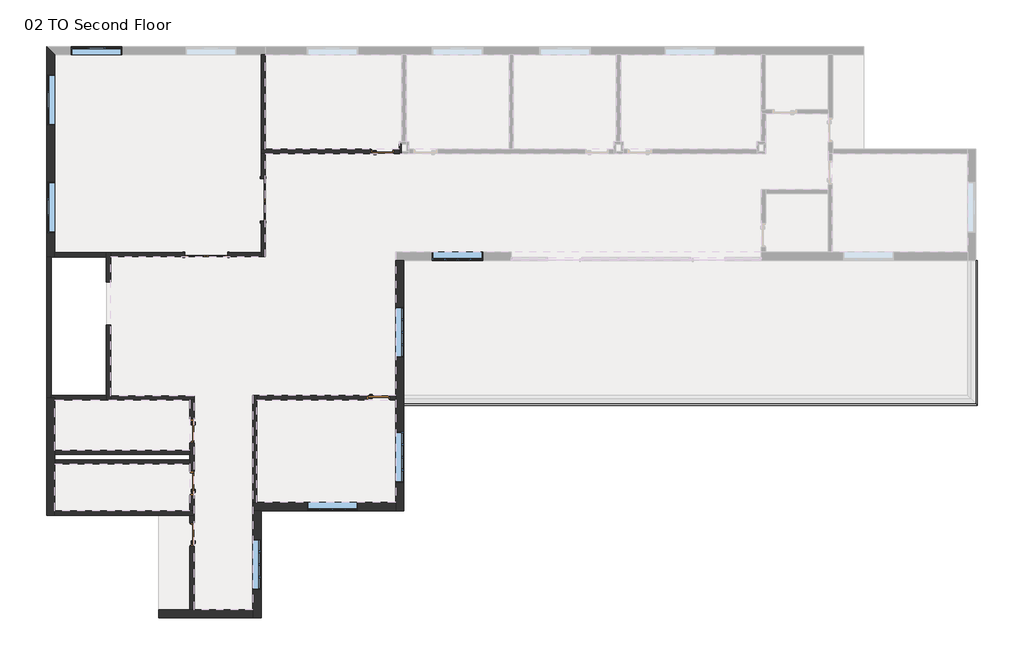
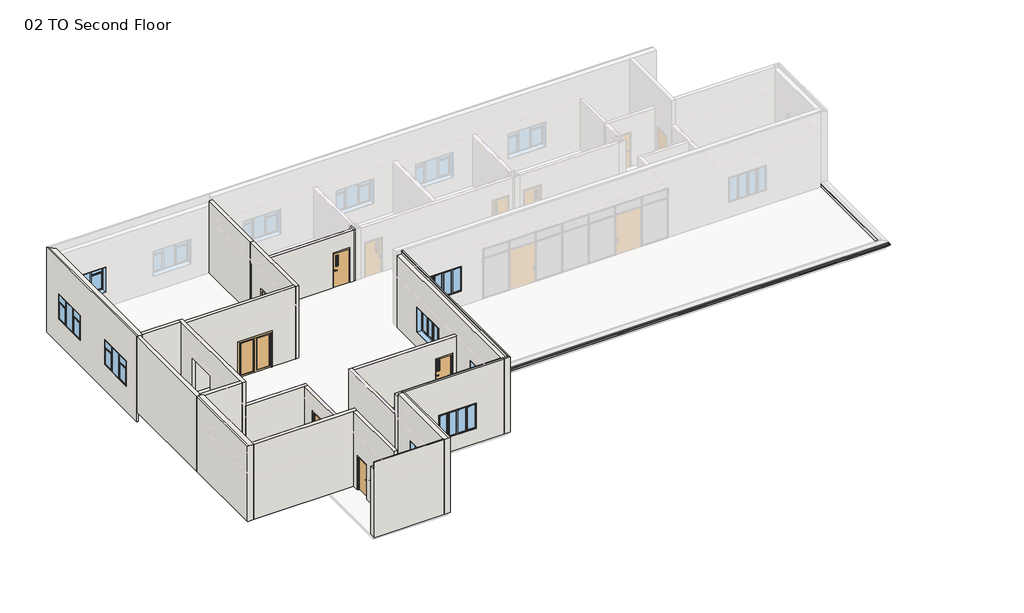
# One storey, part 1 of 3: 25 walls, 8 windows, 7 doors, 2 proxies.
"""IFC4 building model written with IfcOpenShell, lengths in millimetres."""

from ifc_helpers import new_model, si_unit, frame, origin, place, context, project, spatial, polyline, outline, extrude, faceted_brep, transform, mapped, element, save
from components import door_38a2a0c9, door_cf532139, door_1f8fe3fe, door_c4c6d6d8, door_a53d2063, door_a2a745b5, window_c7d59df6, window_casement_triple_side_transom_c3c25feb

model = new_model("IFC4")

# Units and contexts
model_context = context("Model", 3, world=origin())
ifc_project = project(units=[si_unit("LENGTHUNIT", "METRE", prefix="MILLI")], contexts=[model_context])

# Site, building, storey
site = spatial("IfcSite", under=ifc_project)
building = spatial("IfcBuilding", under=site)
storey = spatial("IfcBuildingStorey", under=building, Name="02 TO Second Floor", Elevation=4572.0)

# Proxies
placement = place(None, origin())
element("IfcBuildingElementProxy", 1, Name="Reveals", at=placement, inside=storey, context=model_context, shape_type="SweptSolid", body=[
    extrude(outline(polyline([(-4282.7273699, -6056.5003362), (-4282.7273699, -5964.4253362), (20075.8726301, -5964.4253362), (20167.9476301, -6056.5003362), (-4282.7273699, -6056.5003362)])), frame((0.0, 0.0, 4648.2), z_axis=(0.0, 0.0, 1.0), x_axis=(1.0, 0.0, 0.0)), (0.0, 0.0, 1.0), 67.7333333),
])
element("IfcBuildingElementProxy", 2, Name="Reveals", at=placement, inside=storey, context=model_context, shape_type="SweptSolid", body=[
    extrude(outline(polyline([(20167.9476301, -6056.5003362), (20075.8726301, -5964.4253362), (20075.8726301, 115.6996638), (20167.9476301, 115.6996638), (20167.9476301, -6056.5003362)])), frame((0.0, 0.0, 4648.2), z_axis=(0.0, 0.0, 1.0), x_axis=(1.0, 0.0, 0.0)), (0.0, 0.0, 1.0), 67.7333333),
])

# Doors
door_shape = door_38a2a0c9(model_context)
element("IfcDoor", 3, ObjectType="Door-Double-Glass : Door Double Glass_72\" x 84\"", at=placement, inside=storey, context=model_context, shape_type="MappedRepresentation", body=[
    mapped(door_shape, transform((-10289.0336199, 2706.4996638, 4572.0), x_axis=(0.0, -1.0, 0.0), y_axis=(1.0, 0.0, 0.0), z_axis=(0.0, 0.0, 1.0))),
])
element("IfcDoor", 4, ObjectType="Door-Double-Glass : Door Double Glass_72\" x 84\"", at=placement, inside=storey, context=model_context, shape_type="MappedRepresentation", body=[
    mapped(door_shape, transform((-12715.5273699, 372.0809138, 4572.0), x_axis=(-1.0, 0.0, 0.0), y_axis=(0.0, -1.0, 0.0), z_axis=(0.0, 0.0, 1.0))),
])
door_2_shape = door_cf532139(model_context)
element("IfcDoor", 5, ObjectType="Door-Passage-Single-Flush : Door Passage Single Flush_36\" x 80\"", at=placement, inside=storey, context=model_context, shape_type="MappedRepresentation", body=[
    mapped(door_2_shape, transform((-13321.9523699, -7158.2253362, 4572.0), x_axis=(0.0, -1.0, 0.0), y_axis=(1.0, 0.0, 0.0), z_axis=(0.0, 0.0, 1.0))),
])
door_3_shape = door_1f8fe3fe(model_context)
element("IfcDoor", 6, ObjectType="Door-Passage-Single-Flush : Door Passage Single Flush_36\" x 80\"", at=placement, inside=storey, context=model_context, shape_type="MappedRepresentation", body=[
    mapped(door_3_shape, transform((-13321.9523699, -9393.4253362, 4572.0), x_axis=(0.0, 1.0, 0.0), y_axis=(-1.0, 0.0, 0.0), z_axis=(0.0, 0.0, 1.0))),
])
door_4_shape = door_c4c6d6d8(model_context)
element("IfcDoor", 7, ObjectType="Door-Passage-Single-Flush : Door Passage Single Flush_36\" x 80\"", at=placement, inside=storey, context=model_context, shape_type="MappedRepresentation", body=[
    mapped(door_4_shape, transform((-13331.4773699, -11577.8253362, 4572.0), x_axis=(0.0, 1.0, 0.0), y_axis=(-1.0, 0.0, 0.0), z_axis=(0.0, 0.0, 1.0))),
])
door_5_shape = door_a53d2063(model_context)
element("IfcDoor", 8, ObjectType="Door-Passage-Single-Vision_Lite : Door Passage Single Vision Lite_36\" x 80\"", at=placement, inside=storey, context=model_context, shape_type="MappedRepresentation", body=[
    mapped(door_5_shape, transform((-5197.1273699, 4776.5996638, 4572.0), x_axis=(1.0, 0.0, 0.0), y_axis=(0.0, 1.0, 0.0), z_axis=(0.0, 0.0, 1.0))),
])
door_6_shape = door_a2a745b5(model_context)
element("IfcDoor", 9, ObjectType="Door-Passage-Single-Vision_Lite : Door Passage Single Vision Lite_36\" x 80\"", at=placement, inside=storey, context=model_context, shape_type="MappedRepresentation", body=[
    mapped(door_6_shape, transform((-5374.9273699, -5742.1753362, 4572.0), x_axis=(1.0, 0.0, 0.0), y_axis=(0.0, 1.0, 0.0), z_axis=(0.0, 0.0, 1.0))),
])

# Walls
element("IfcWall", 10, ObjectType="Ext Wall_14\"_Brick on CMU_E1", at=placement, inside=storey, context=model_context, shape_type="Brep", body=[
    faceted_brep([(-4638.3273699, 115.6996638, 4572.0), (-4638.3273699, -5643.7503362, 4572.0), (-4638.3273699, -5827.9003362, 4572.0), (-4638.3273699, -10206.2253362, 4572.0), (-4638.3273699, -10561.8253362, 4572.0), (-4638.3273699, -10561.8253362, 9144.0), (-4638.3273699, -10460.2253362, 9144.0), (-4638.3273699, -10460.2253362, 8966.2), (-4638.3273699, -10206.2253362, 8966.2), (-4638.3273699, 115.6996638, 8966.2), (-4638.3273699, -9355.3253362, 7010.4), (-4638.3273699, -9355.3253362, 5486.4), (-4638.3273699, -7196.3253362, 5486.4), (-4638.3273699, -7196.3253362, 7010.4), (-4638.3273699, -4021.3253362, 7010.4), (-4638.3273699, -4021.3253362, 5486.4), (-4638.3273699, -1862.3253362, 5486.4), (-4638.3273699, -1862.3253362, 7010.4), (-4282.7273699, 115.6996638, 9144.0), (-4282.7273699, -10561.8253362, 9144.0), (-4282.7273699, -10561.8253362, 4572.0), (-4282.7273699, -5989.8253362, 4572.0), (-4282.7273699, -5634.2253362, 4572.0), (-4282.7273699, 115.6996638, 4572.0), (-4282.7273699, -9355.3253362, 5486.4), (-4282.7273699, -9355.3253362, 7010.4), (-4282.7273699, -7196.3253362, 7010.4), (-4282.7273699, -7196.3253362, 5486.4), (-4282.7273699, -4021.3253362, 5486.4), (-4282.7273699, -4021.3253362, 7010.4), (-4282.7273699, -1862.3253362, 7010.4), (-4282.7273699, -1862.3253362, 5486.4), (-4358.9273699, 115.6996638, 4572.0), (-4384.3273699, 115.6996638, 8966.2), (-4384.3273699, 115.6996638, 9144.0), (-4358.9273699, 115.6996638, 9144.0), (-4358.9273699, -10561.8253362, 4572.0), (-4358.9273699, -10561.8253362, 9144.0), (-4384.3273699, -10460.2253362, 8966.2), (-4384.3273699, -10460.2253362, 9144.0)], [[[0, 1, 2, 3, 4, 5, 6, 7, 8, 9], [10, 11, 12, 13], [14, 15, 16, 17]], [[18, 19, 20, 21, 22, 23], [24, 25, 26, 27], [28, 29, 30, 31]], [[18, 23, 32, 0, 9, 33, 34, 35]], [[5, 4, 36, 20, 19, 37]], [[7, 38, 33, 9, 8]], [[38, 39, 34, 33]], [[39, 38, 7, 6]], [[11, 10, 25, 24]], [[12, 11, 24, 27]], [[13, 12, 27, 26]], [[10, 13, 26, 25]], [[15, 14, 29, 28]], [[16, 15, 28, 31]], [[17, 16, 31, 30]], [[14, 17, 30, 29]], [[4, 3, 2, 1, 0, 32, 36]], [[32, 23, 22, 21, 20, 36]], [[19, 18, 35, 37]], [[5, 37, 35, 34, 39, 6]]]),
])
element("IfcWall", 11, ObjectType="Ext Wall_14\"_Brick on CMU_E1", at=placement, inside=storey, context=model_context, shape_type="Brep", body=[
    faceted_brep([(-4638.3273699, -10206.2253362, 4572.0), (-10550.1773699, -10206.2253362, 4572.0), (-10734.3273699, -10206.2253362, 4572.0), (-10734.3273699, -10206.2253362, 7670.8), (-10734.3273699, -10206.2253362, 8966.2), (-4638.3273699, -10206.2253362, 8966.2), (-8410.2273699, -10206.2253362, 7010.4), (-8410.2273699, -10206.2253362, 5486.4), (-6251.2273699, -10206.2253362, 5486.4), (-6251.2273699, -10206.2253362, 7010.4), (-4638.3273699, -10561.8253362, 4572.0), (-4638.3273699, -10561.8253362, 9144.0), (-10378.7273699, -10561.8253362, 9144.0), (-10480.3273699, -10561.8253362, 9144.0), (-10480.3273699, -10561.8253362, 8966.2), (-10734.3273699, -10561.8253362, 8966.2), (-10734.3273699, -10561.8253362, 4572.0), (-10378.7273699, -10561.8253362, 4572.0), (-8410.2273699, -10561.8253362, 5486.4), (-8410.2273699, -10561.8253362, 7010.4), (-6251.2273699, -10561.8253362, 7010.4), (-6251.2273699, -10561.8253362, 5486.4), (-4638.3273699, -10485.6253362, 4572.0), (-4638.3273699, -10460.2253362, 8966.2), (-4638.3273699, -10460.2253362, 9144.0), (-4638.3273699, -10485.6253362, 9144.0), (-10480.3273699, -10460.2253362, 8966.2), (-10480.3273699, -10460.2253362, 9144.0), (-10480.3273699, -10485.6253362, 9144.0), (-10734.3273699, -10485.6253362, 4572.0)], [[[0, 1, 2, 3, 4, 5], [6, 7, 8, 9]], [[10, 11, 12, 13, 14, 15, 16, 17], [18, 19, 20, 21]], [[11, 10, 22, 0, 5, 23, 24, 25]], [[14, 26, 23, 5, 4, 15]], [[27, 26, 14, 13, 28]], [[26, 27, 24, 23]], [[7, 6, 19, 18]], [[8, 7, 18, 21]], [[9, 8, 21, 20]], [[6, 9, 20, 19]], [[2, 29, 16, 15, 4, 3]], [[2, 1, 0, 22, 29]], [[22, 10, 17, 16, 29]], [[11, 25, 28, 13, 12]], [[25, 24, 27, 28]]]),
])
element("IfcWall", 12, ObjectType="Ext Wall_14\"_Brick on CMU_E1", at=placement, inside=storey, context=model_context, shape_type="Brep", body=[
    faceted_brep([(-10734.3273699, -10561.8253362, 9144.0), (-10734.3273699, -10561.8253362, 8966.2), (-10734.3273699, -10561.8253362, 4572.0), (-10734.3273699, -14778.2253362, 4572.0), (-10734.3273699, -15133.8253362, 4572.0), (-10734.3273699, -15133.8253362, 9144.0), (-10734.3273699, -15057.6253362, 9144.0), (-10734.3273699, -13927.3253362, 7010.4), (-10734.3273699, -13927.3253362, 5486.4), (-10734.3273699, -11768.3253362, 5486.4), (-10734.3273699, -11768.3253362, 7010.4), (-10378.7273699, -10561.8253362, 4572.0), (-10378.7273699, -10561.8253362, 9144.0), (-10378.7273699, -15133.8253362, 9144.0), (-10378.7273699, -15133.8253362, 4572.0), (-10378.7273699, -13927.3253362, 7010.4), (-10378.7273699, -11768.3253362, 7010.4), (-10378.7273699, -11768.3253362, 5486.4), (-10378.7273699, -13927.3253362, 5486.4), (-10454.9273699, -15133.8253362, 4572.0), (-10454.9273699, -15133.8253362, 9144.0), (-10480.3273699, -10561.8253362, 9144.0), (-10454.9273699, -10561.8253362, 9144.0), (-10454.9273699, -10561.8253362, 4572.0)], [[[0, 1, 2, 3, 4, 5, 6], [7, 8, 9, 10]], [[11, 12, 13, 14], [15, 16, 17, 18]], [[5, 4, 19, 14, 13, 20]], [[8, 7, 15, 18]], [[9, 8, 18, 17]], [[10, 9, 17, 16]], [[7, 10, 16, 15]], [[0, 21, 22, 12, 11, 23, 2, 1]], [[4, 3, 2, 23, 19]], [[23, 11, 14, 19]], [[20, 13, 12, 22]], [[0, 6, 5, 20, 22, 21]]]),
])
element("IfcWall", 13, ObjectType="Ext Wall_14\"_Brick on CMU_E1", at=placement, inside=storey, context=model_context, shape_type="Brep", body=[
    faceted_brep([(-19167.1273699, -10765.0253362, 4572.0), (-19167.1273699, -8563.1628362, 4572.0), (-19167.1273699, -8394.8878362, 4572.0), (-19167.1273699, -8156.7628362, 4572.0), (-19167.1273699, -7988.4878362, 4572.0), (-19167.1273699, -5735.8253362, 4572.0), (-19167.1273699, -5735.8253362, 9144.0), (-19167.1273699, -10765.0253362, 9144.0), (-19522.7273699, -10765.0253362, 4572.0), (-19522.7273699, -10765.0253362, 9144.0), (-19522.7273699, -5735.8253362, 9144.0), (-19522.7273699, -5735.8253362, 4572.0), (-19319.5273699, -5735.8253362, 4572.0), (-19446.5273699, -5735.8253362, 4572.0), (-19446.5273699, -5735.8253362, 9144.0), (-19319.5273699, -5735.8253362, 9144.0), (-19446.5273699, -10765.0253362, 9144.0), (-19446.5273699, -10765.0253362, 4572.0)], [[[0, 1, 2, 3, 4, 5, 6, 7]], [[8, 9, 10, 11]], [[6, 5, 12, 13, 11, 10, 14, 15]], [[0, 7, 16, 9, 8, 17]], [[5, 4, 3, 2, 1, 0, 17, 13, 12]], [[17, 8, 11, 13]], [[14, 10, 9, 16]], [[7, 6, 15, 14, 16]]]),
])
element("IfcWall", 14, ObjectType="Ext Wall_14\"_Brick on CMU_E1", at=placement, inside=storey, context=model_context, shape_type="SweptSolid", body=[
    extrude(outline(polyline([(-15133.8253362, 4572.0), (-15133.8253362, 9144.0), (-15057.6253362, 9144.0), (-15057.6253362, 8686.8), (-14778.2253362, 8686.8), (-14778.2253362, 4572.0), (-15057.6253362, 4572.0), (-15133.8253362, 4572.0)])), frame((-14747.5273699, 0.0, 0.0), z_axis=(1.0, 0.0, 0.0), x_axis=(0.0, 1.0, 0.0)), (0.0, 0.0, 1.0), 4013.2),
])
element("IfcWall", 15, ObjectType="Ext Wall_14\"_Brick on CMU_E1", at=placement, inside=storey, context=model_context, shape_type="Brep", body=[
    faceted_brep([(-19167.1273699, 258.5746638, 4572.0), (-19167.1273699, 8894.5746638, 4572.0), (-19167.1273699, 8894.5746638, 9144.0), (-19167.1273699, 258.5746638, 9144.0), (-19167.1273699, 8043.6746638, 7010.4), (-19167.1273699, 8043.6746638, 5486.4), (-19167.1273699, 5884.6746638, 5486.4), (-19167.1273699, 5884.6746638, 7010.4), (-19167.1273699, 3471.6746638, 7010.4), (-19167.1273699, 3471.6746638, 5486.4), (-19167.1273699, 1312.6746638, 5486.4), (-19167.1273699, 1312.6746638, 7010.4), (-19522.7273699, 258.5746638, 3962.4), (-19522.7273699, 258.5746638, 4572.0), (-19522.7273699, 258.5746638, 9144.0), (-19522.7273699, 9250.1746638, 9144.0), (-19522.7273699, 9250.1746638, 3962.4), (-19522.7273699, 8043.6746638, 7010.4), (-19522.7273699, 5884.6746638, 7010.4), (-19522.7273699, 5884.6746638, 5486.4), (-19522.7273699, 8043.6746638, 5486.4), (-19522.7273699, 3471.6746638, 7010.4), (-19522.7273699, 1312.6746638, 7010.4), (-19522.7273699, 1312.6746638, 5486.4), (-19522.7273699, 3471.6746638, 5486.4), (-19319.5273699, 258.5746638, 4572.0), (-19446.5273699, 258.5746638, 4572.0), (-19446.5273699, 9173.9746638, 4572.0), (-19446.5273699, 258.5746638, 3962.4), (-19446.5273699, 9173.9746638, 3962.4), (-19446.5273699, 9173.9746638, 9144.0), (-19319.5273699, 258.5746638, 9144.0), (-19446.5273699, 258.5746638, 9144.0)], [[[0, 1, 2, 3], [4, 5, 6, 7], [8, 9, 10, 11]], [[12, 13, 14, 15, 16], [17, 18, 19, 20], [21, 22, 23, 24]], [[1, 0, 25, 26, 27]], [[27, 26, 28, 29]], [[2, 1, 27, 29, 16, 15, 30]], [[4, 7, 18, 17]], [[7, 6, 19, 18]], [[6, 5, 20, 19]], [[5, 4, 17, 20]], [[8, 11, 22, 21]], [[11, 10, 23, 22]], [[10, 9, 24, 23]], [[9, 8, 21, 24]], [[0, 3, 31, 32, 14, 13, 12, 28, 26, 25]], [[28, 12, 16, 29]], [[30, 15, 14, 32]], [[3, 2, 30, 32, 31]]]),
])
element("IfcWall", 16, ObjectType="Ext Wall_Brick on CIP_E4", at=placement, inside=storey, context=model_context, shape_type="Brep", body=[
    faceted_brep([(-19319.5273699, -5735.8253362, 4572.0), (-19319.5273699, 258.5746638, 4572.0), (-19319.5273699, 258.5746638, 9144.0), (-19319.5273699, -5735.8253362, 9144.0), (-19522.7273699, -5735.8253362, 4572.0), (-19522.7273699, -5735.8253362, 9144.0), (-19522.7273699, 258.5746638, 9144.0), (-19522.7273699, 258.5746638, 4572.0), (-19446.5273699, 258.5746638, 4572.0)], [[[0, 1, 2, 3]], [[4, 5, 6, 7]], [[1, 0, 4, 7, 8]], [[3, 2, 6, 5]], [[0, 3, 5, 4]], [[2, 1, 8, 7, 6]]]),
])
element("IfcWall", 17, ObjectType="IntWall_P1_7 1/4\"", at=placement, inside=storey, context=model_context, shape_type="Brep", body=[
    faceted_brep([(-10194.5773699, 4862.3246638, 4572.0), (-10194.5773699, 8894.5746638, 4572.0), (-10194.5773699, 8894.5746638, 8966.2), (-10194.5773699, 4770.2496638, 8966.2), (-10194.5773699, 4770.2496638, 7670.8), (-10194.5773699, 4862.3246638, 7670.8), (-10378.7273699, 4862.3246638, 4572.0), (-10378.7273699, 4862.3246638, 7670.8), (-10378.7273699, 4770.2496638, 7670.8), (-10378.7273699, 4770.2496638, 8966.2), (-10378.7273699, 8894.5746638, 8966.2), (-10378.7273699, 8894.5746638, 4572.0), (-10200.9273699, 8894.5746638, 4572.0)], [[[0, 1, 2, 3, 4, 5]], [[6, 7, 8, 9, 10, 11]], [[1, 0, 6, 11, 12]], [[3, 2, 10, 9]], [[2, 1, 12, 11, 10]], [[4, 3, 9, 8]], [[4, 8, 7, 5]], [[0, 5, 7, 6]]]),
])
element("IfcWall", 18, ObjectType="IntWall_P1_7 1/4\"", at=placement, inside=storey, context=model_context, shape_type="Brep", body=[
    faceted_brep([(-10378.7273699, 1792.0996638, 6705.6), (-10378.7273699, 1792.0996638, 4572.0), (-10378.7273699, 461.7746638, 4572.0), (-10378.7273699, 277.6246638, 4572.0), (-10378.7273699, 277.6246638, 8966.2), (-10378.7273699, 461.7746638, 8966.2), (-10378.7273699, 4770.2496638, 8966.2), (-10378.7273699, 4770.2496638, 7670.8), (-10378.7273699, 4678.1746638, 7670.8), (-10378.7273699, 4678.1746638, 4572.0), (-10378.7273699, 3620.8996638, 4572.0), (-10378.7273699, 3620.8996638, 6705.6), (-10194.5773699, 277.6246638, 4572.0), (-10194.5773699, 1792.0996638, 4572.0), (-10194.5773699, 1792.0996638, 6705.6), (-10194.5773699, 3620.8996638, 6705.6), (-10194.5773699, 3620.8996638, 4572.0), (-10194.5773699, 4678.1746638, 4572.0), (-10194.5773699, 4678.1746638, 7670.8), (-10194.5773699, 4770.2496638, 7670.8), (-10194.5773699, 4770.2496638, 8966.2), (-10194.5773699, 277.6246638, 8966.2)], [[[0, 1, 2, 3, 4, 5, 6, 7, 8, 9, 10, 11]], [[12, 13, 14, 15, 16, 17, 18, 19, 20, 21]], [[10, 9, 17, 16]], [[3, 2, 1, 13, 12]], [[6, 5, 4, 21, 20]], [[4, 3, 12, 21]], [[14, 13, 1, 0]], [[15, 14, 0, 11]], [[16, 15, 11, 10]], [[7, 6, 20, 19]], [[7, 19, 18, 8]], [[9, 8, 18, 17]]]),
])
element("IfcWall", 19, ObjectType="IntWall_P1_7 1/4\"", at=placement, inside=storey, context=model_context, shape_type="SweptSolid", body=[
    extrude(outline(polyline([(4572.0, -16779.5273699), (4572.0, -13629.9273699), (6705.6, -13629.9273699), (6705.6, -11801.1273699), (4572.0, -11801.1273699), (4572.0, -10378.7273699), (8966.2, -10378.7273699), (8966.2, -16779.5273699), (4572.0, -16779.5273699)])), frame((0.0, 277.6246638, 0.0), z_axis=(0.0, 1.0, 0.0), x_axis=(0.0, 0.0, 1.0)), (0.0, 0.0, 1.0), 184.15),
])
element("IfcWall", 20, ObjectType="IntWall_P1_7 1/4\"", at=placement, inside=storey, context=model_context, shape_type="Brep", body=[
    faceted_brep([(-16779.5273699, -5837.4253362, 4572.0), (-13407.6773699, -5837.4253362, 4572.0), (-13223.5273699, -5837.4253362, 4572.0), (-13223.5273699, -5837.4253362, 7670.8), (-13407.6773699, -5837.4253362, 7670.8), (-16779.5273699, -5837.4253362, 7670.8), (-16779.5273699, -5653.2753362, 4572.0), (-16779.5273699, -5653.2753362, 7670.8), (-13223.5273699, -5653.2753362, 7670.8), (-13223.5273699, -5653.2753362, 4572.0)], [[[0, 1, 2, 3, 4, 5]], [[6, 7, 8, 9]], [[2, 1, 0, 6, 9]], [[5, 4, 3, 8, 7]], [[3, 2, 9, 8]], [[0, 5, 7, 6]]]),
])
element("IfcWall", 21, ObjectType="IntWall_P1_7 1/4\"", at=placement, inside=storey, context=model_context, shape_type="Brep", body=[
    faceted_brep([(-13223.5273699, -5837.4253362, 7670.8), (-13223.5273699, -10561.8253362, 7670.8), (-13223.5273699, -10561.8253362, 4572.0), (-13223.5273699, -9901.4253362, 4572.0), (-13223.5273699, -9901.4253362, 6705.6), (-13223.5273699, -8885.4253362, 6705.6), (-13223.5273699, -8885.4253362, 4572.0), (-13223.5273699, -7666.2253362, 4572.0), (-13223.5273699, -7666.2253362, 6705.6), (-13223.5273699, -6650.2253362, 6705.6), (-13223.5273699, -6650.2253362, 4572.0), (-13223.5273699, -5837.4253362, 4572.0), (-13407.6773699, -10561.8253362, 7670.8), (-13407.6773699, -5837.4253362, 7670.8), (-13407.6773699, -5837.4253362, 4572.0), (-13407.6773699, -6650.2253362, 4572.0), (-13407.6773699, -6650.2253362, 6705.6), (-13407.6773699, -7666.2253362, 6705.6), (-13407.6773699, -7666.2253362, 4572.0), (-13407.6773699, -7988.4878362, 4572.0), (-13407.6773699, -8156.7628362, 4572.0), (-13407.6773699, -8394.8878362, 4572.0), (-13407.6773699, -8563.1628362, 4572.0), (-13407.6773699, -8885.4253362, 4572.0), (-13407.6773699, -8885.4253362, 6705.6), (-13407.6773699, -9901.4253362, 6705.6), (-13407.6773699, -9901.4253362, 4572.0), (-13407.6773699, -10561.8253362, 4572.0)], [[[0, 1, 2, 3, 4, 5, 6, 7, 8, 9, 10, 11]], [[12, 13, 14, 15, 16, 17, 18, 19, 20, 21, 22, 23, 24, 25, 26, 27]], [[2, 27, 26, 3]], [[14, 11, 10, 15]], [[6, 23, 22, 21, 20, 19, 18, 7]], [[1, 0, 13, 12]], [[2, 1, 12, 27]], [[0, 11, 14, 13]], [[5, 24, 23, 6]], [[24, 5, 4, 25]], [[25, 4, 3, 26]], [[17, 8, 7, 18]], [[8, 17, 16, 9]], [[9, 16, 15, 10]]]),
])
element("IfcWall", 22, ObjectType="IntWall_P1_7 1/4\"", at=placement, inside=storey, context=model_context, shape_type="Brep", body=[
    faceted_brep([(-10550.1773699, -10206.2253362, 4572.0), (-10550.1773699, -5827.9003362, 4572.0), (-10550.1773699, -5643.7503362, 4572.0), (-10550.1773699, -5643.7503362, 7670.8), (-10550.1773699, -5827.9003362, 7670.8), (-10550.1773699, -10206.2253362, 7670.8), (-10734.3273699, -10206.2253362, 4572.0), (-10734.3273699, -10206.2253362, 7670.8), (-10734.3273699, -5643.7503362, 7670.8), (-10734.3273699, -5643.7503362, 4572.0)], [[[0, 1, 2, 3, 4, 5]], [[6, 7, 8, 9]], [[2, 1, 0, 6, 9]], [[5, 4, 3, 8, 7]], [[0, 5, 7, 6]], [[3, 2, 9, 8]]]),
])
element("IfcWall", 23, ObjectType="IntWall_P1_7 1/4\"", at=placement, inside=storey, context=model_context, shape_type="SweptSolid", body=[
    extrude(outline(polyline([(7670.8, -4638.3273699), (7670.8, -10550.1773699), (4572.0, -10550.1773699), (4572.0, -5882.9273699), (6705.6, -5882.9273699), (6705.6, -4866.9273699), (4572.0, -4866.9273699), (4572.0, -4638.3273699), (7670.8, -4638.3273699)])), frame((0.0, -5827.9003362, 0.0), z_axis=(0.0, 1.0, 0.0), x_axis=(0.0, 0.0, 1.0)), (0.0, 0.0, 1.0), 184.15),
])
element("IfcWall", 24, ObjectType="IntWall_P1_7 1/4\"", at=placement, inside=storey, context=model_context, shape_type="Brep", body=[
    faceted_brep([(-10378.7273699, 4862.3246638, 7670.8), (-10194.5773699, 4862.3246638, 7670.8), (-4486.4059277, 4862.3246638, 7670.8), (-4486.4059277, 4862.3246638, 4572.0), (-4689.1273699, 4862.3246638, 4572.0), (-4689.1273699, 4862.3246638, 6705.6), (-5705.1273699, 4862.3246638, 6705.6), (-5705.1273699, 4862.3246638, 4572.0), (-10194.5773699, 4862.3246638, 4572.0), (-10378.7273699, 4862.3246638, 4572.0), (-4486.4059277, 4678.1746638, 7670.8), (-10194.5773699, 4678.1746638, 7670.8), (-10378.7273699, 4678.1746638, 7670.8), (-10378.7273699, 4678.1746638, 4572.0), (-10194.5773699, 4678.1746638, 4572.0), (-5705.1273699, 4678.1746638, 4572.0), (-5705.1273699, 4678.1746638, 6705.6), (-4689.1273699, 4678.1746638, 6705.6), (-4689.1273699, 4678.1746638, 4572.0), (-4486.4059277, 4678.1746638, 4572.0), (-10378.7273699, 4770.2496638, 7670.8)], [[[0, 1, 2, 3, 4, 5, 6, 7, 8, 9]], [[10, 11, 12, 13, 14, 15, 16, 17, 18, 19]], [[13, 9, 8, 7, 15, 14]], [[3, 19, 18, 4]], [[2, 1, 0, 20, 12, 11, 10]], [[0, 9, 13, 12, 20]], [[3, 2, 10, 19]], [[17, 5, 4, 18]], [[5, 17, 16, 6]], [[6, 16, 15, 7]]]),
])
element("IfcWall", 25, ObjectType="IntWall_P2_6 5/8\"", at=placement, inside=storey, context=model_context, shape_type="SweptSolid", body=[
    extrude(outline(polyline([(-7988.4878362, 7010.4), (-7988.4878362, 4572.0), (-8156.7628362, 4572.0), (-8156.7628362, 7010.4), (-8004.3628362, 7010.4), (-7988.4878362, 7010.4)])), frame((-19167.1273699, 0.0, 0.0), z_axis=(1.0, 0.0, 0.0), x_axis=(0.0, 1.0, 0.0)), (0.0, 0.0, 1.0), 5759.45),
])
element("IfcWall", 26, ObjectType="IntWall_P2_6 5/8\"", at=placement, inside=storey, context=model_context, shape_type="SweptSolid", body=[
    extrude(outline(polyline([(-8394.8878362, 7010.4), (-8394.8878362, 4572.0), (-8563.1628362, 4572.0), (-8563.1628362, 7010.4), (-8547.2878362, 7010.4), (-8394.8878362, 7010.4)])), frame((-19167.1273699, 0.0, 0.0), z_axis=(1.0, 0.0, 0.0), x_axis=(0.0, 1.0, 0.0)), (0.0, 0.0, 1.0), 5759.45),
])
element("IfcWall", 27, ObjectType="IntWall_P3_3 5/8\"", at=placement, inside=storey, context=model_context, shape_type="Brep", body=[
    faceted_brep([(-4394.3309277, 4678.1746638, 4572.0), (-4394.3309277, 4770.2496638, 4572.0), (-4394.3309277, 5094.0996638, 4572.0), (-4394.3309277, 5094.0996638, 7670.8), (-4394.3309277, 4770.2496638, 7670.8), (-4394.3309277, 4678.1746638, 7670.8), (-4486.4059277, 4678.1746638, 4572.0), (-4486.4059277, 4678.1746638, 7670.8), (-4486.4059277, 4862.3246638, 7670.8), (-4486.4059277, 5094.0996638, 7670.8), (-4486.4059277, 5094.0996638, 4572.0), (-4486.4059277, 4862.3246638, 4572.0)], [[[0, 1, 2, 3, 4, 5]], [[6, 7, 8, 9, 10, 11]], [[2, 1, 0, 6, 11, 10]], [[5, 4, 3, 9, 8, 7]], [[0, 5, 7, 6]], [[3, 2, 10, 9]]]),
])
element("IfcWall", 28, ObjectType="Parapet_14\"_Brick on CMU", at=placement, inside=storey, context=model_context, shape_type="Brep", body=[
    faceted_brep([(-4282.7273699, -5989.8253362, 4572.0), (20101.2726301, -5989.8253362, 4572.0), (20101.2726301, -5989.8253362, 4648.2), (-4282.7273699, -5989.8253362, 4648.2), (20101.2726301, -5989.8253362, 4775.2), (-4282.7273699, -5989.8253362, 4775.2), (-4282.7273699, -5989.8253362, 4715.9333333), (20101.2726301, -5989.8253362, 4715.9333333), (20101.2726301, -5634.2253362, 4572.0), (19745.6726301, -5634.2253362, 4572.0), (-4282.7273699, -5634.2253362, 4572.0), (-4282.7273699, -5634.2253362, 4775.2), (19745.6726301, -5634.2253362, 4775.2), (20101.2726301, -5634.2253362, 4775.2), (20101.2726301, -5634.2253362, 4715.9333333), (20075.8726301, -5634.2253362, 4715.9333333), (20075.8726301, -5634.2253362, 4648.2), (20101.2726301, -5634.2253362, 4648.2), (-4282.7273699, -5964.4253362, 4648.2), (-4282.7273699, -5964.4253362, 4715.9333333), (20075.8726301, -5964.4253362, 4715.9333333), (20075.8726301, -5964.4253362, 4648.2)], [[[0, 1, 2, 3]], [[4, 5, 6, 7]], [[8, 9, 10, 11, 12, 13, 14, 15, 16, 17]], [[1, 0, 10, 9, 8]], [[5, 4, 13, 12, 11]], [[5, 11, 10, 0, 3, 18, 19, 6]], [[1, 8, 17, 2]], [[13, 4, 7, 14]], [[20, 19, 18, 21]], [[21, 18, 3, 2, 17, 16]], [[19, 20, 15, 14, 7, 6]], [[20, 21, 16, 15]]]),
])
element("IfcWall", 29, ObjectType="Parapet_14\"_Brick on CMU", at=placement, inside=storey, context=model_context, shape_type="SweptSolid", body=[
    extrude(outline(polyline([(4775.2, 20101.2726301), (4775.2, 19745.6726301), (4572.0, 19745.6726301), (4572.0, 20101.2726301), (4648.2, 20101.2726301), (4648.2, 20075.8726301), (4715.9333333, 20075.8726301), (4715.9333333, 20101.2726301), (4775.2, 20101.2726301)])), frame((0.0, -5634.2253362, 0.0), z_axis=(0.0, 1.0, 0.0), x_axis=(0.0, 0.0, 1.0)), (0.0, 0.0, 1.0), 5749.925),
])
element("IfcWall", 30, ObjectType="Shear Wall_S1_8\" CIP", at=placement, inside=storey, context=model_context, shape_type="Brep", body=[
    faceted_brep([(-16982.7273699, -5837.4253362, 4572.0), (-16982.7273699, -5837.4253362, 9144.0), (-16982.7273699, -5634.2253362, 9144.0), (-16982.7273699, 258.5746638, 9144.0), (-16982.7273699, 461.7746638, 9144.0), (-16982.7273699, 461.7746638, 4572.0), (-16982.7273699, 258.5746638, 4572.0), (-16982.7273699, -808.2253362, 4572.0), (-16982.7273699, -808.2253362, 7620.0), (-16982.7273699, -2637.0253362, 7620.0), (-16982.7273699, -2637.0253362, 4572.0), (-16982.7273699, -5634.2253362, 4572.0), (-16779.5273699, -5837.4253362, 9144.0), (-16779.5273699, -5837.4253362, 4572.0), (-16779.5273699, -2637.0253362, 4572.0), (-16779.5273699, -2637.0253362, 7620.0), (-16779.5273699, -808.2253362, 7620.0), (-16779.5273699, -808.2253362, 4572.0), (-16779.5273699, 461.7746638, 4572.0), (-16779.5273699, 461.7746638, 9144.0)], [[[0, 1, 2, 3, 4, 5, 6, 7, 8, 9, 10, 11]], [[12, 13, 14, 15, 16, 17, 18, 19]], [[13, 0, 11, 10, 14]], [[5, 18, 17, 7, 6]], [[4, 3, 2, 1, 12, 19]], [[0, 13, 12, 1]], [[4, 19, 18, 5]], [[8, 16, 15, 9]], [[16, 8, 7, 17]], [[9, 15, 14, 10]]]),
])
element("IfcWall", 31, ObjectType="Shear Wall_S1_8\" CIP", at=placement, inside=storey, context=model_context, shape_type="SweptSolid", body=[
    extrude(outline(polyline([(-19319.5273699, -5634.2253362), (-16982.7273699, -5634.2253362), (-16982.7273699, -5837.4253362), (-19167.1273699, -5837.4253362), (-19167.1273699, -5735.8253362), (-19319.5273699, -5735.8253362), (-19319.5273699, -5634.2253362)])), frame((0.0, 0.0, 4572.0), z_axis=(0.0, 0.0, 1.0), x_axis=(1.0, 0.0, 0.0)), (0.0, 0.0, 1.0), 4572.0),
])
element("IfcWall", 32, ObjectType="Shear Wall_S1_8\" CIP", at=placement, inside=storey, context=model_context, shape_type="Brep", body=[
    faceted_brep([(-19167.1273699, -10765.0253362, 4572.0), (-13426.7273699, -10765.0253362, 4572.0), (-13223.5273699, -10765.0253362, 4572.0), (-13223.5273699, -10765.0253362, 9144.0), (-13426.7273699, -10765.0253362, 9144.0), (-19167.1273699, -10765.0253362, 9144.0), (-19167.1273699, -10561.8253362, 4572.0), (-19167.1273699, -10561.8253362, 9144.0), (-13223.5273699, -10561.8253362, 9144.0), (-13223.5273699, -10561.8253362, 4572.0)], [[[0, 1, 2, 3, 4, 5]], [[6, 7, 8, 9]], [[2, 1, 0, 6, 9]], [[5, 4, 3, 8, 7]], [[0, 5, 7, 6]], [[2, 9, 8, 3]]]),
])
element("IfcWall", 33, ObjectType="Shear Wall_S1_8\" CIP", at=placement, inside=storey, context=model_context, shape_type="SweptSolid", body=[
    extrude(outline(polyline([(-14778.2253362, 9144.0), (-10765.0253362, 9144.0), (-10765.0253362, 4572.0), (-11069.8253362, 4572.0), (-11069.8253362, 6705.6), (-12085.8253362, 6705.6), (-12085.8253362, 4572.0), (-14778.2253362, 4572.0), (-14778.2253362, 9144.0)])), frame((-13426.7273699, 0.0, 0.0), z_axis=(1.0, 0.0, 0.0), x_axis=(0.0, 1.0, 0.0)), (0.0, 0.0, 1.0), 203.2),
])
element("IfcWall", 34, ObjectType="Shear Wall_S1_8\" CIP", at=placement, inside=storey, context=model_context, shape_type="SweptSolid", body=[
    extrude(outline(polyline([(-16982.7273699, 258.5746638), (-19167.1273699, 258.5746638), (-19167.1273699, 461.7746638), (-16982.7273699, 461.7746638), (-16982.7273699, 258.5746638)])), frame((0.0, 0.0, 4572.0), z_axis=(0.0, 0.0, 1.0), x_axis=(1.0, 0.0, 0.0)), (0.0, 0.0, 1.0), 4572.0),
])

# Windows
window_shape = window_c7d59df6(model_context)
element("IfcWindow", 35, ObjectType="Window-Casement-Multi-Sash-Horizontal : Multi Sash Window_A_85\" x 60\"", at=placement, inside=storey, context=model_context, shape_type="MappedRepresentation", body=[
    mapped(window_shape, transform((-10556.5273699, -12847.8253362, 4572.0), x_axis=(0.0, -1.0, 0.0), y_axis=(1.0, 0.0, 0.0), z_axis=(0.0, 0.0, 1.0))),
])
element("IfcWindow", 36, ObjectType="Window-Casement-Multi-Sash-Horizontal : Multi Sash Window_A_85\" x 60\"", at=placement, inside=storey, context=model_context, shape_type="MappedRepresentation", body=[
    mapped(window_shape, transform((-7330.7273699, -10384.0253362, 4572.0), x_axis=(-1.0, 0.0, 0.0), y_axis=(0.0, -1.0, 0.0), z_axis=(0.0, 0.0, 1.0))),
])
element("IfcWindow", 37, ObjectType="Window-Casement-Multi-Sash-Horizontal : Multi Sash Window_A_85\" x 60\"", at=placement, inside=storey, context=model_context, shape_type="MappedRepresentation", body=[
    mapped(window_shape, transform((-4460.5273699, -8275.8253362, 4572.0), x_axis=(0.0, -1.0, 0.0), y_axis=(1.0, 0.0, 0.0), z_axis=(0.0, 0.0, 1.0))),
])
element("IfcWindow", 38, ObjectType="Window-Casement-Multi-Sash-Horizontal : Multi Sash Window_A_85\" x 60\"", at=placement, inside=storey, context=model_context, shape_type="MappedRepresentation", body=[
    mapped(window_shape, transform((-4460.5273699, -2941.8253362, 4572.0), x_axis=(0.0, -1.0, 0.0), y_axis=(1.0, 0.0, 0.0), z_axis=(0.0, 0.0, 1.0))),
])
element("IfcWindow", 39, ObjectType="Window-Casement-Multi-Sash-Horizontal : Multi Sash Window_A_85\" x 60\"", at=placement, inside=storey, context=model_context, shape_type="MappedRepresentation", body=[
    mapped(window_shape, transform((-1996.7273699, 293.4996638, 4572.0), x_axis=(-1.0, 0.0, 0.0), y_axis=(0.0, -1.0, 0.0), z_axis=(0.0, 0.0, 1.0))),
])
window_casement_triple_side_transom_shape = window_casement_triple_side_transom_c3c25feb(model_context)
element("IfcWindow", 40, ObjectType="Window-Casement-Triple-Side-Transom : Triple Side WIndow_B_85\" x 60\"", at=placement, inside=storey, context=model_context, shape_type="MappedRepresentation", body=[
    mapped(window_casement_triple_side_transom_shape, transform((-17389.1273699, 9072.3746638, 4572.0), x_axis=(1.0, 0.0, 0.0), y_axis=(0.0, 1.0, 0.0), z_axis=(0.0, 0.0, 1.0))),
])
element("IfcWindow", 41, ObjectType="Window-Casement-Triple-Side-Transom : Triple Side WIndow_B_85\" x 60\"", at=placement, inside=storey, context=model_context, shape_type="MappedRepresentation", body=[
    mapped(window_casement_triple_side_transom_shape, transform((-19344.9273699, 6964.1746638, 4572.0), x_axis=(0.0, 1.0, 0.0), y_axis=(-1.0, 0.0, 0.0), z_axis=(0.0, 0.0, 1.0))),
])
element("IfcWindow", 42, ObjectType="Window-Casement-Triple-Side-Transom : Triple Side WIndow_B_85\" x 60\"", at=placement, inside=storey, context=model_context, shape_type="MappedRepresentation", body=[
    mapped(window_casement_triple_side_transom_shape, transform((-19344.9273699, 2392.1746638, 4572.0), x_axis=(0.0, 1.0, 0.0), y_axis=(-1.0, 0.0, 0.0), z_axis=(0.0, 0.0, 1.0))),
])

save(model, "model.ifc")
